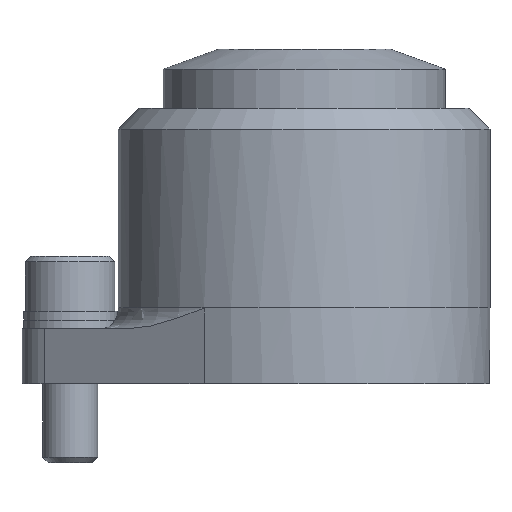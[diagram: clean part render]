
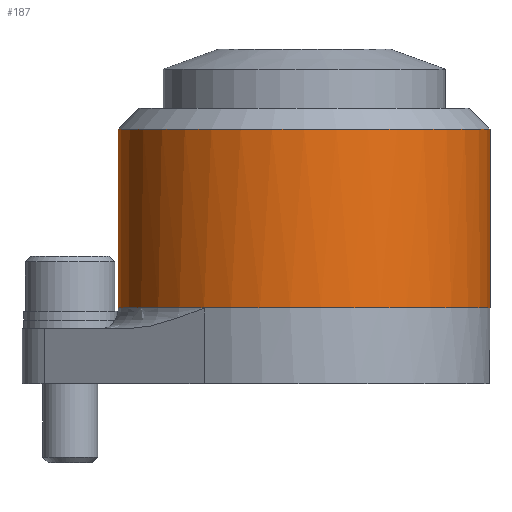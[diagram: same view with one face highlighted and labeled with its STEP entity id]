
A CAD part, front view. The second image highlights one B-rep face of the part: STEP entity #187.
In plain terms, the highlighted cylindrical face has radius 27 mm (diameter 54 mm), a partial arc.
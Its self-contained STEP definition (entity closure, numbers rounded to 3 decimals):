
#187=ADVANCED_FACE('',(#298),#262,.T.);
#262=CYLINDRICAL_SURFACE('',#1342,27.);
#298=FACE_OUTER_BOUND('',#362,.T.);
#362=EDGE_LOOP('',(#563,#564,#565,#566,#567));
#448=CIRCLE('',#1317,27.);
#466=CIRCLE('',#1340,27.);
#467=CIRCLE('',#1341,27.);
#563=ORIENTED_EDGE('',*,*,#983,.T.);
#564=ORIENTED_EDGE('',*,*,#1008,.T.);
#565=ORIENTED_EDGE('',*,*,#1009,.F.);
#566=ORIENTED_EDGE('',*,*,#1006,.F.);
#567=ORIENTED_EDGE('',*,*,#1010,.T.);
#873=VERTEX_POINT('',#1885);
#874=VERTEX_POINT('',#1887);
#892=VERTEX_POINT('',#1931);
#893=VERTEX_POINT('',#1933);
#894=VERTEX_POINT('',#1935);
#983=EDGE_CURVE('',#874,#873,#448,.T.);
#1006=EDGE_CURVE('',#892,#893,#1158,.T.);
#1008=EDGE_CURVE('',#873,#894,#1159,.T.);
#1009=EDGE_CURVE('',#893,#894,#466,.T.);
#1010=EDGE_CURVE('',#892,#874,#467,.T.);
#1158=LINE('',#1932,#1240);
#1159=LINE('',#1936,#1241);
#1240=VECTOR('',#1529,1.);
#1241=VECTOR('',#1532,1.);
#1317=AXIS2_PLACEMENT_3D('',#1886,#1481,#1482);
#1340=AXIS2_PLACEMENT_3D('',#1938,#1535,#1536);
#1341=AXIS2_PLACEMENT_3D('',#1939,#1537,#1538);
#1342=AXIS2_PLACEMENT_3D('',#1940,#1539,#1540);
#1481=DIRECTION('',(0.,0.,1.));
#1482=DIRECTION('',(-1.,0.,0.));
#1529=DIRECTION('',(0.,0.,1.));
#1532=DIRECTION('',(0.,0.,1.));
#1535=DIRECTION('',(0.,0.,1.));
#1536=DIRECTION('',(0.,1.,0.));
#1537=DIRECTION('',(0.,0.,1.));
#1538=DIRECTION('',(0.,1.,0.));
#1539=DIRECTION('',(0.,0.,1.));
#1540=DIRECTION('',(0.,-1.,0.));
#1885=CARTESIAN_POINT('',(27.,0.,11.));
#1886=CARTESIAN_POINT('',(0.,0.,11.));
#1887=CARTESIAN_POINT('',(-14.544,-22.748,11.));
#1931=CARTESIAN_POINT('',(-27.,0.,11.));
#1932=CARTESIAN_POINT('',(-27.,0.,37.));
#1933=CARTESIAN_POINT('',(-27.,0.,37.));
#1935=CARTESIAN_POINT('',(27.,0.,37.));
#1936=CARTESIAN_POINT('',(27.,0.,37.));
#1938=CARTESIAN_POINT('',(0.,0.,37.));
#1939=CARTESIAN_POINT('',(0.,0.,11.));
#1940=CARTESIAN_POINT('',(0.,0.,0.));
